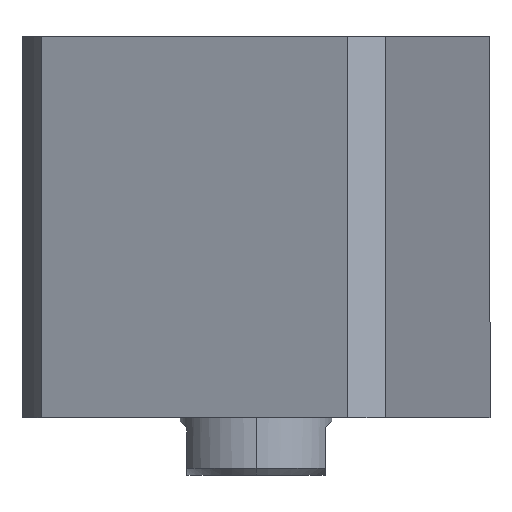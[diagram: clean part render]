
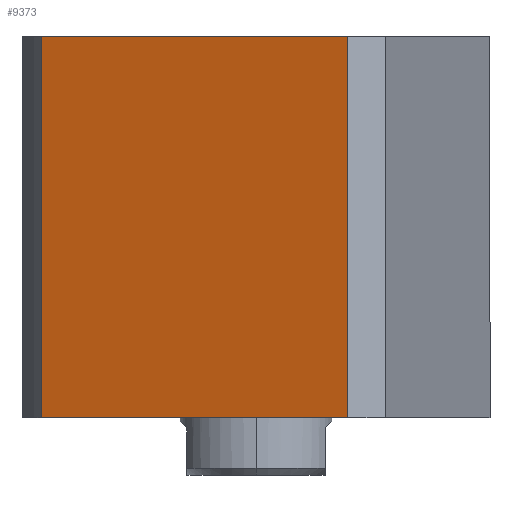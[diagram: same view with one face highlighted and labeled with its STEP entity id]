
A CAD part, front view. The second image highlights one B-rep face of the part: STEP entity #9373.
In plain terms, the highlighted planar face has unit normal (-0.322, -0.947, 0) as drawn and (1, 0, 0) by its records, which use the part's own axes.
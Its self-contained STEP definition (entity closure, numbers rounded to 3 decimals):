
#161 = DIRECTION ( 'NONE',  ( 0., 0., 1. ) ) ;
#1163 = ORIENTED_EDGE ( 'NONE', *, *, #4668, .F. ) ;
#1185 = CARTESIAN_POINT ( 'NONE',  ( 57., 47.971, 113. ) ) ;
#1536 = VERTEX_POINT ( 'NONE', #4649 ) ;
#2575 = EDGE_CURVE ( 'NONE', #3709, #1536, #7214, .T. ) ;
#3461 = VERTEX_POINT ( 'NONE', #13813 ) ;
#3709 = VERTEX_POINT ( 'NONE', #15266 ) ;
#4386 = LINE ( 'NONE', #9627, #10268 ) ;
#4649 = CARTESIAN_POINT ( 'NONE',  ( 57., 47.971, 0. ) ) ;
#4668 = EDGE_CURVE ( 'NONE', #3461, #14846, #12372, .T. ) ;
#4736 = ORIENTED_EDGE ( 'NONE', *, *, #14990, .F. ) ;
#4947 = VECTOR ( 'NONE', #7037, 1000. ) ;
#5162 = DIRECTION ( 'NONE',  ( 0., 1., 0. ) ) ;
#5230 = ORIENTED_EDGE ( 'NONE', *, *, #2575, .T. ) ;
#5797 = PLANE ( 'NONE',  #12378 ) ;
#5847 = DIRECTION ( 'NONE',  ( -1., 0., 0. ) ) ;
#7037 = DIRECTION ( 'NONE',  ( 0., 0., -1. ) ) ;
#7214 = LINE ( 'NONE', #15148, #13086 ) ;
#8039 = FACE_OUTER_BOUND ( 'NONE', #13126, .T. ) ;
#8861 = VECTOR ( 'NONE', #5162, 1000. ) ;
#9299 = DIRECTION ( 'NONE',  ( 0., 1., 0. ) ) ;
#9373 = ADVANCED_FACE ( 'NONE', ( #8039 ), #5797, .F. ) ;
#9396 = EDGE_CURVE ( 'NONE', #14846, #1536, #11196, .T. ) ;
#9627 = CARTESIAN_POINT ( 'NONE',  ( 57., -47.971, -187. ) ) ;
#10268 = VECTOR ( 'NONE', #161, 1000. ) ;
#10518 = CARTESIAN_POINT ( 'NONE',  ( 57., 57., 113. ) ) ;
#10594 = ORIENTED_EDGE ( 'NONE', *, *, #9396, .F. ) ;
#11196 = LINE ( 'NONE', #15212, #4947 ) ;
#12085 = CARTESIAN_POINT ( 'NONE',  ( 57., 57., 113. ) ) ;
#12372 = LINE ( 'NONE', #12085, #8861 ) ;
#12378 = AXIS2_PLACEMENT_3D ( 'NONE', #10518, #5847, #14050 ) ;
#13086 = VECTOR ( 'NONE', #9299, 1000. ) ;
#13126 = EDGE_LOOP ( 'NONE', ( #4736, #5230, #10594, #1163 ) ) ;
#13813 = CARTESIAN_POINT ( 'NONE',  ( 57., -47.971, 113. ) ) ;
#14050 = DIRECTION ( 'NONE',  ( 0., -1., 0. ) ) ;
#14846 = VERTEX_POINT ( 'NONE', #1185 ) ;
#14990 = EDGE_CURVE ( 'NONE', #3709, #3461, #4386, .T. ) ;
#15148 = CARTESIAN_POINT ( 'NONE',  ( 57., 57., 0. ) ) ;
#15212 = CARTESIAN_POINT ( 'NONE',  ( 57., 47.971, -187. ) ) ;
#15266 = CARTESIAN_POINT ( 'NONE',  ( 57., -47.971, 0. ) ) ;
